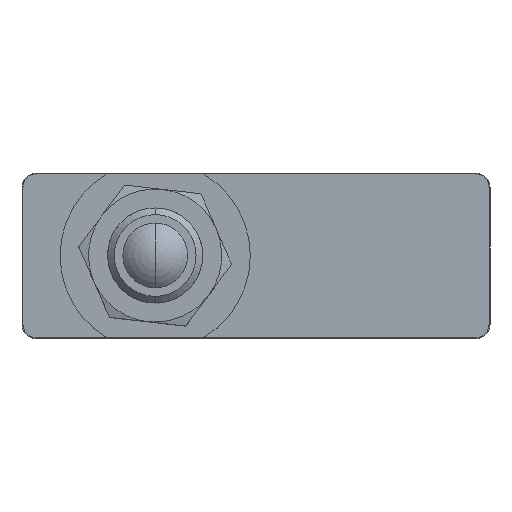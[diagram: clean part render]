
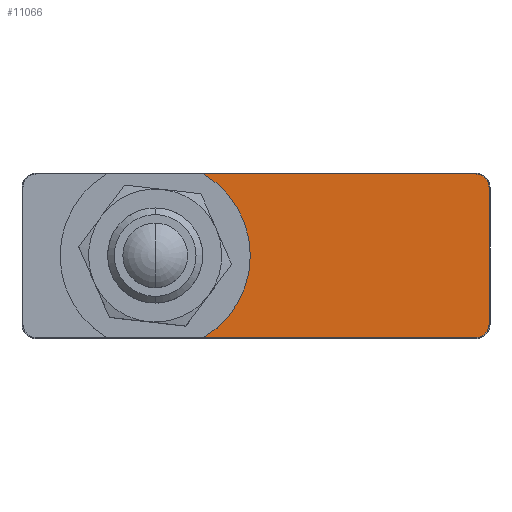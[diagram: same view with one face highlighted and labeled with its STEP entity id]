
A CAD part, top view. The second image highlights one B-rep face of the part: STEP entity #11066.
In plain terms, the highlighted planar face has unit normal (0, 0, 1).
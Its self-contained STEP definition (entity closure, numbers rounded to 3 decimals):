
#24 = LINE ( 'NONE', #10778, #10841 ) ;
#71 = ORIENTED_EDGE ( 'NONE', *, *, #10830, .T. ) ;
#540 = DIRECTION ( 'NONE',  ( 1., 0., 0. ) ) ;
#625 = CARTESIAN_POINT ( 'NONE',  ( 24.5, -7.2, 18.4 ) ) ;
#1015 = CARTESIAN_POINT ( 'NONE',  ( -5.497, 8.6, 18.4 ) ) ;
#1180 = AXIS2_PLACEMENT_3D ( 'NONE', #10867, #4623, #11917 ) ;
#1214 = AXIS2_PLACEMENT_3D ( 'NONE', #10320, #6188, #13493 ) ;
#1446 = CARTESIAN_POINT ( 'NONE',  ( 24.5, -7.2, 18.4 ) ) ;
#2126 = CARTESIAN_POINT ( 'NONE',  ( 23.1, -8.6, 18.4 ) ) ;
#2290 = VERTEX_POINT ( 'NONE', #1446 ) ;
#2302 = VECTOR ( 'NONE', #4171, 1000. ) ;
#2472 = DIRECTION ( 'NONE',  ( 1., 0., 0. ) ) ;
#2499 = AXIS2_PLACEMENT_3D ( 'NONE', #13095, #6842, #540 ) ;
#2628 = LINE ( 'NONE', #3088, #2302 ) ;
#2734 = CARTESIAN_POINT ( 'NONE',  ( 23.1, 8.6, 18.4 ) ) ;
#3088 = CARTESIAN_POINT ( 'NONE',  ( 23.1, 8.6, 18.4 ) ) ;
#3444 = VERTEX_POINT ( 'NONE', #2734 ) ;
#4171 = DIRECTION ( 'NONE',  ( -1., 0., 0. ) ) ;
#4623 = DIRECTION ( 'NONE',  ( 0., 0., 1. ) ) ;
#4930 = DIRECTION ( 'NONE',  ( 0., 0., 1. ) ) ;
#5484 = CIRCLE ( 'NONE', #2499, 1.4 ) ;
#5564 = LINE ( 'NONE', #625, #13581 ) ;
#5632 = CARTESIAN_POINT ( 'NONE',  ( 24.5, 7.2, 18.4 ) ) ;
#6188 = DIRECTION ( 'NONE',  ( 0., 0., 1. ) ) ;
#6561 = VERTEX_POINT ( 'NONE', #1015 ) ;
#6842 = DIRECTION ( 'NONE',  ( 0., 0., 1. ) ) ;
#6876 = EDGE_CURVE ( 'NONE', #2290, #9170, #5564, .T. ) ;
#7637 = CARTESIAN_POINT ( 'NONE',  ( -5.497, -8.6, 18.4 ) ) ;
#8070 = ORIENTED_EDGE ( 'NONE', *, *, #8558, .F. ) ;
#8558 = EDGE_CURVE ( 'NONE', #10121, #6561, #12264, .T. ) ;
#8898 = ORIENTED_EDGE ( 'NONE', *, *, #9988, .T. ) ;
#9170 = VERTEX_POINT ( 'NONE', #5632 ) ;
#9299 = EDGE_LOOP ( 'NONE', ( #8070, #71, #12170, #12610, #8898, #13330 ) ) ;
#9851 = FACE_OUTER_BOUND ( 'NONE', #9299, .T. ) ;
#9862 = EDGE_CURVE ( 'NONE', #10162, #2290, #5484, .T. ) ;
#9988 = EDGE_CURVE ( 'NONE', #9170, #3444, #11834, .T. ) ;
#10121 = VERTEX_POINT ( 'NONE', #7637 ) ;
#10162 = VERTEX_POINT ( 'NONE', #2126 ) ;
#10254 = AXIS2_PLACEMENT_3D ( 'NONE', #11185, #4930, #12233 ) ;
#10320 = CARTESIAN_POINT ( 'NONE',  ( 23.1, -7.2, 18.4 ) ) ;
#10531 = EDGE_CURVE ( 'NONE', #3444, #6561, #2628, .T. ) ;
#10778 = CARTESIAN_POINT ( 'NONE',  ( -23.1, -8.6, 18.4 ) ) ;
#10830 = EDGE_CURVE ( 'NONE', #10121, #10162, #24, .T. ) ;
#10841 = VECTOR ( 'NONE', #2472, 1000. ) ;
#10867 = CARTESIAN_POINT ( 'NONE',  ( -10.6, 0., 18.4 ) ) ;
#11066 = ADVANCED_FACE ( 'NONE', ( #9851 ), #12424, .T. ) ;
#11185 = CARTESIAN_POINT ( 'NONE',  ( 23.1, 7.2, 18.4 ) ) ;
#11834 = CIRCLE ( 'NONE', #10254, 1.4 ) ;
#11917 = DIRECTION ( 'NONE',  ( 1., 0., 0. ) ) ;
#12170 = ORIENTED_EDGE ( 'NONE', *, *, #9862, .T. ) ;
#12176 = DIRECTION ( 'NONE',  ( 0., 1., 0. ) ) ;
#12233 = DIRECTION ( 'NONE',  ( 1., 0., 0. ) ) ;
#12264 = CIRCLE ( 'NONE', #1180, 10. ) ;
#12424 = PLANE ( 'NONE',  #1214 ) ;
#12610 = ORIENTED_EDGE ( 'NONE', *, *, #6876, .T. ) ;
#13095 = CARTESIAN_POINT ( 'NONE',  ( 23.1, -7.2, 18.4 ) ) ;
#13330 = ORIENTED_EDGE ( 'NONE', *, *, #10531, .T. ) ;
#13493 = DIRECTION ( 'NONE',  ( 1., 0., 0. ) ) ;
#13581 = VECTOR ( 'NONE', #12176, 1000. ) ;
